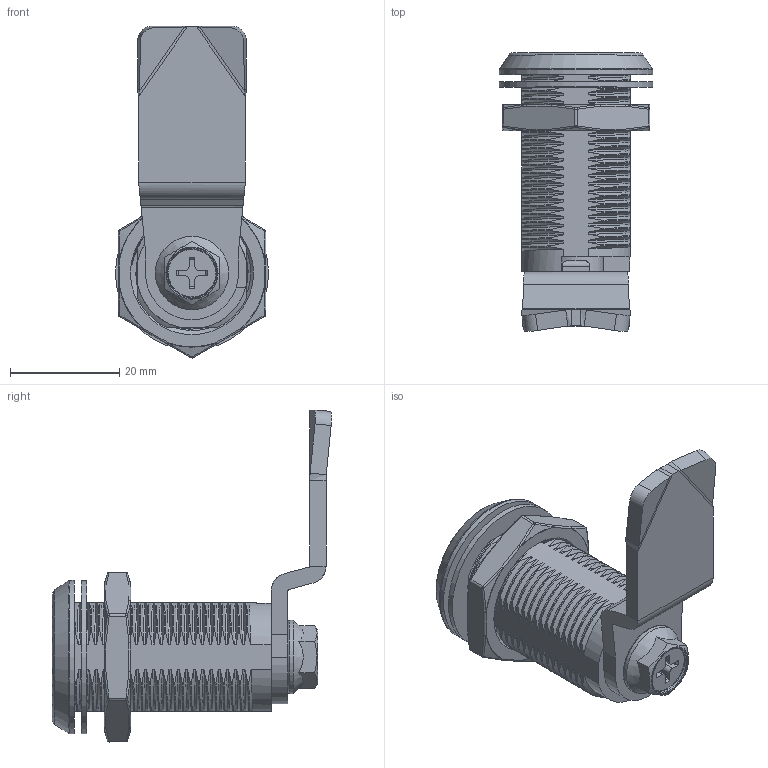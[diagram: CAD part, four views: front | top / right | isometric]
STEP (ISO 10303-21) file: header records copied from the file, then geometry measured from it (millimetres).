
FILE_DESCRIPTION(/* description */ (''),/* implementation_level */ '2;1');
FILE_NAME(/* name */ 'D1-1403-037装配图_sldasm.stp',/* time_stamp */ '2026-06-16T17:21:24+08:00',/* author */ (''),/* organization */ (''),/* preprocessor_version */ 'ST-DEVELOPER v19.4',/* originating_system */ 'SIEMENS PLM Software NX2306.1700',/* authorisation */ '');
FILE_SCHEMA (('AUTOMOTIVE_DESIGN { 1 0 10303 214 3 1 1 1 }'));
Products named in the file (9): J-M22螺母_sldprt; CAM4507_sldprt; M22x1橡胶垫_sldprt; 2X16密封圈_sldprt; 10.2X0.3单波片_sldprt; M6X8螺钉_sldprt; D1-1403-037锁芯_sldprt; D1-1403-037锁壳_sldprt; D1-1403-037装配图_sldasm
Assembly tree (8 placements, depth 2):
  D1-1403-037装配图_sldasm
    D1-1403-037锁壳_sldprt
    D1-1403-037锁芯_sldprt
    M6X8螺钉_sldprt
    10.2X0.3单波片_sldprt
    2X16密封圈_sldprt
    M22x1橡胶垫_sldprt
    CAM4507_sldprt
    J-M22螺母_sldprt
Bounding box: 28 x 51.01 x 60.66 mm (x, y, z)
Volume: 17956.1 mm3; surface area: 14228.5 mm2
Topology: 8 solids, 8 shells, 634 faces, 1699 edges, 1088 vertices
Faces by surface type: bspline 308, cylinder 154, plane 102, revolution 36, cone 25, torus 9
Full cylindrical faces by diameter (mm): 8.869 x1, 10 x2, 10.2 x1, 12.8 x1, 13.4 x1, 15.2 x1, 15.8 x2, 16.1 x1, 28 x2
Entity records: 278320 total; most frequent: CARTESIAN_POINT 265607, ORIENTED_EDGE 3318, EDGE_CURVE 1659, DIRECTION 1653, VERTEX_POINT 1078, EDGE_LOOP 678, ADVANCED_FACE 633, LINE 593
